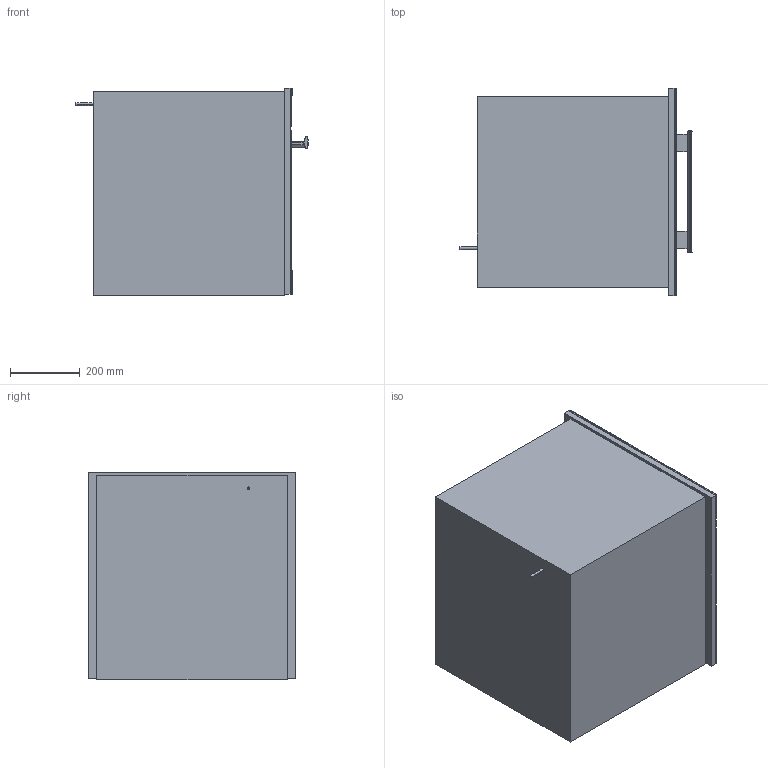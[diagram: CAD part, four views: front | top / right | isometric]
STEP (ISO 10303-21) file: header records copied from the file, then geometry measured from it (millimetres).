
FILE_DESCRIPTION(/* description */ (''),/* implementation_level */ '2;1');
FILE_NAME(/* name */ 'DGC6660_CLST',/* time_stamp */ '2013-03-11T12:10:01+01:00',/* author */ (''),/* organization */ (''),/* preprocessor_version */ 'ST-DEVELOPER v10',/* originating_system */ '',/* authorisation */ '');
FILE_SCHEMA (('AUTOMOTIVE_DESIGN_CC2'));
Length unit declared in the file: millimetre
Products named in the file (1): 1
Bounding box: 666.1 x 595 x 596.12 mm (x, y, z)
Volume: 110859583.2 mm3; surface area: 4414284.8 mm2
Topology: 47 solids, 48 shells, 275 faces, 514 edges, 324 vertices
Faces by surface type: bspline 275
Entity records: 14125 total; most frequent: CARTESIAN_POINT 10615, ORIENTED_EDGE 992, EDGE_CURVE 502, VERTEX_POINT 324, EDGE_LOOP 279, ADVANCED_FACE 275, FACE_OUTER_BOUND 275, B_SPLINE_CURVE_WITH_KNOTS 198
